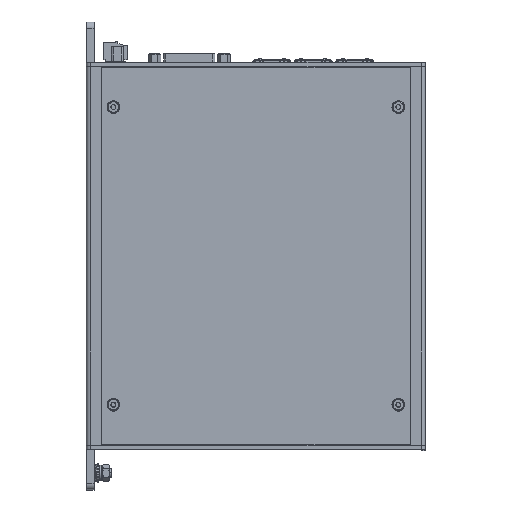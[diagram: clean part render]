
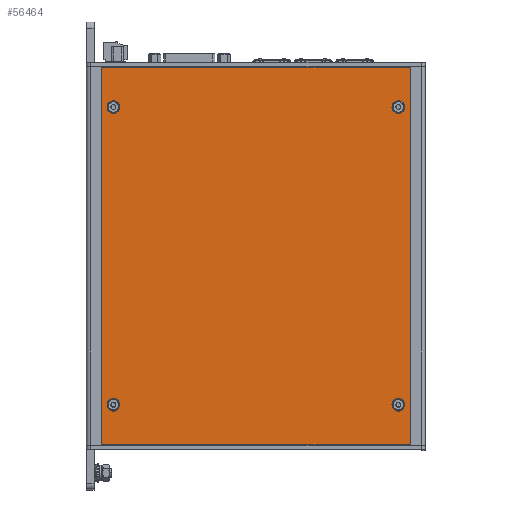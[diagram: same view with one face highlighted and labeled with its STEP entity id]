
A CAD part, top view. The second image highlights one B-rep face of the part: STEP entity #56464.
In plain terms, the highlighted planar face has unit normal (0, 0, 1).
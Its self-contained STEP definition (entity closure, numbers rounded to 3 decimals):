
#56345=DIRECTION('',(0.,-1.,0.));
#56346=VECTOR('',#56345,177.6);
#56347=CARTESIAN_POINT('',(66.3,88.3,46.2));
#56348=LINE('',#56347,#56346);
#56349=DIRECTION('',(-1.,0.,0.));
#56350=VECTOR('',#56349,145.1);
#56351=CARTESIAN_POINT('',(66.3,-89.3,46.2));
#56352=LINE('',#56351,#56350);
#56353=DIRECTION('',(0.,1.,0.));
#56354=VECTOR('',#56353,177.6);
#56355=CARTESIAN_POINT('',(-78.8,-89.3,46.2));
#56356=LINE('',#56355,#56354);
#56357=DIRECTION('',(1.,0.,0.));
#56358=VECTOR('',#56357,145.1);
#56359=CARTESIAN_POINT('',(-78.8,88.3,46.2));
#56360=LINE('',#56359,#56358);
#56361=CARTESIAN_POINT('',(-73.25,69.5,46.2));
#56362=DIRECTION('',(0.,0.,1.));
#56363=DIRECTION('',(0.,1.,0.));
#56364=AXIS2_PLACEMENT_3D('',#56361,#56362,#56363);
#56366=CARTESIAN_POINT('',(-73.25,69.5,46.2));
#56367=DIRECTION('',(0.,0.,1.));
#56368=DIRECTION('',(0.,-1.,0.));
#56369=AXIS2_PLACEMENT_3D('',#56366,#56367,#56368);
#56371=CARTESIAN_POINT('',(-73.25,-70.5,46.2));
#56372=DIRECTION('',(0.,0.,1.));
#56373=DIRECTION('',(0.,1.,0.));
#56374=AXIS2_PLACEMENT_3D('',#56371,#56372,#56373);
#56376=CARTESIAN_POINT('',(-73.25,-70.5,46.2));
#56377=DIRECTION('',(0.,0.,1.));
#56378=DIRECTION('',(0.,-1.,0.));
#56379=AXIS2_PLACEMENT_3D('',#56376,#56377,#56378);
#56381=CARTESIAN_POINT('',(60.75,69.5,46.2));
#56382=DIRECTION('',(0.,0.,1.));
#56383=DIRECTION('',(0.,1.,0.));
#56384=AXIS2_PLACEMENT_3D('',#56381,#56382,#56383);
#56386=CARTESIAN_POINT('',(60.75,69.5,46.2));
#56387=DIRECTION('',(0.,0.,1.));
#56388=DIRECTION('',(0.,-1.,0.));
#56389=AXIS2_PLACEMENT_3D('',#56386,#56387,#56388);
#56391=CARTESIAN_POINT('',(60.75,-70.5,46.2));
#56392=DIRECTION('',(0.,0.,1.));
#56393=DIRECTION('',(0.,1.,0.));
#56394=AXIS2_PLACEMENT_3D('',#56391,#56392,#56393);
#56396=CARTESIAN_POINT('',(60.75,-70.5,46.2));
#56397=DIRECTION('',(0.,0.,1.));
#56398=DIRECTION('',(0.,-1.,0.));
#56399=AXIS2_PLACEMENT_3D('',#56396,#56397,#56398);
#56401=CARTESIAN_POINT('',(66.3,-89.3,46.2));
#56402=CARTESIAN_POINT('',(66.3,88.3,46.2));
#56403=VERTEX_POINT('',#56401);
#56404=VERTEX_POINT('',#56402);
#56405=CARTESIAN_POINT('',(-78.8,-89.3,46.2));
#56406=CARTESIAN_POINT('',(-78.8,88.3,46.2));
#56407=VERTEX_POINT('',#56405);
#56408=VERTEX_POINT('',#56406);
#56409=CARTESIAN_POINT('',(-73.25,66.5,46.2));
#56410=CARTESIAN_POINT('',(-73.25,72.5,46.2));
#56411=VERTEX_POINT('',#56409);
#56412=VERTEX_POINT('',#56410);
#56413=CARTESIAN_POINT('',(-73.25,-73.5,46.2));
#56414=CARTESIAN_POINT('',(-73.25,-67.5,46.2));
#56415=VERTEX_POINT('',#56413);
#56416=VERTEX_POINT('',#56414);
#56417=CARTESIAN_POINT('',(60.75,66.5,46.2));
#56418=CARTESIAN_POINT('',(60.75,72.5,46.2));
#56419=VERTEX_POINT('',#56417);
#56420=VERTEX_POINT('',#56418);
#56421=CARTESIAN_POINT('',(60.75,-73.5,46.2));
#56422=CARTESIAN_POINT('',(60.75,-67.5,46.2));
#56423=VERTEX_POINT('',#56421);
#56424=VERTEX_POINT('',#56422);
#56425=CARTESIAN_POINT('',(66.3,-89.3,46.2));
#56426=DIRECTION('',(0.,0.,1.));
#56427=DIRECTION('',(0.,1.,0.));
#56428=AXIS2_PLACEMENT_3D('',#56425,#56426,#56427);
#56429=PLANE('',#56428);
#56431=ORIENTED_EDGE('',*,*,#56430,.T.);
#56433=ORIENTED_EDGE('',*,*,#56432,.T.);
#56435=ORIENTED_EDGE('',*,*,#56434,.T.);
#56437=ORIENTED_EDGE('',*,*,#56436,.T.);
#56438=EDGE_LOOP('',(#56431,#56433,#56435,#56437));
#56439=FACE_OUTER_BOUND('',#56438,.F.);
#56441=ORIENTED_EDGE('',*,*,#56440,.T.);
#56443=ORIENTED_EDGE('',*,*,#56442,.T.);
#56444=EDGE_LOOP('',(#56441,#56443));
#56445=FACE_BOUND('',#56444,.F.);
#56447=ORIENTED_EDGE('',*,*,#56446,.T.);
#56449=ORIENTED_EDGE('',*,*,#56448,.T.);
#56450=EDGE_LOOP('',(#56447,#56449));
#56451=FACE_BOUND('',#56450,.F.);
#56453=ORIENTED_EDGE('',*,*,#56452,.T.);
#56455=ORIENTED_EDGE('',*,*,#56454,.T.);
#56456=EDGE_LOOP('',(#56453,#56455));
#56457=FACE_BOUND('',#56456,.F.);
#56459=ORIENTED_EDGE('',*,*,#56458,.T.);
#56461=ORIENTED_EDGE('',*,*,#56460,.T.);
#56462=EDGE_LOOP('',(#56459,#56461));
#56463=FACE_BOUND('',#56462,.F.);
#56365=CIRCLE('',#56364,3.);
#56370=CIRCLE('',#56369,3.);
#56375=CIRCLE('',#56374,3.);
#56380=CIRCLE('',#56379,3.);
#56385=CIRCLE('',#56384,3.);
#56390=CIRCLE('',#56389,3.);
#56395=CIRCLE('',#56394,3.);
#56400=CIRCLE('',#56399,3.);
#56430=EDGE_CURVE('',#56404,#56403,#56348,.T.);
#56432=EDGE_CURVE('',#56403,#56407,#56352,.T.);
#56434=EDGE_CURVE('',#56407,#56408,#56356,.T.);
#56436=EDGE_CURVE('',#56408,#56404,#56360,.T.);
#56440=EDGE_CURVE('',#56412,#56411,#56365,.T.);
#56442=EDGE_CURVE('',#56411,#56412,#56370,.T.);
#56446=EDGE_CURVE('',#56416,#56415,#56375,.T.);
#56448=EDGE_CURVE('',#56415,#56416,#56380,.T.);
#56452=EDGE_CURVE('',#56420,#56419,#56385,.T.);
#56454=EDGE_CURVE('',#56419,#56420,#56390,.T.);
#56458=EDGE_CURVE('',#56424,#56423,#56395,.T.);
#56460=EDGE_CURVE('',#56423,#56424,#56400,.T.);
#56464=ADVANCED_FACE('',(#56439,#56445,#56451,#56457,#56463),#56429,.T.);
